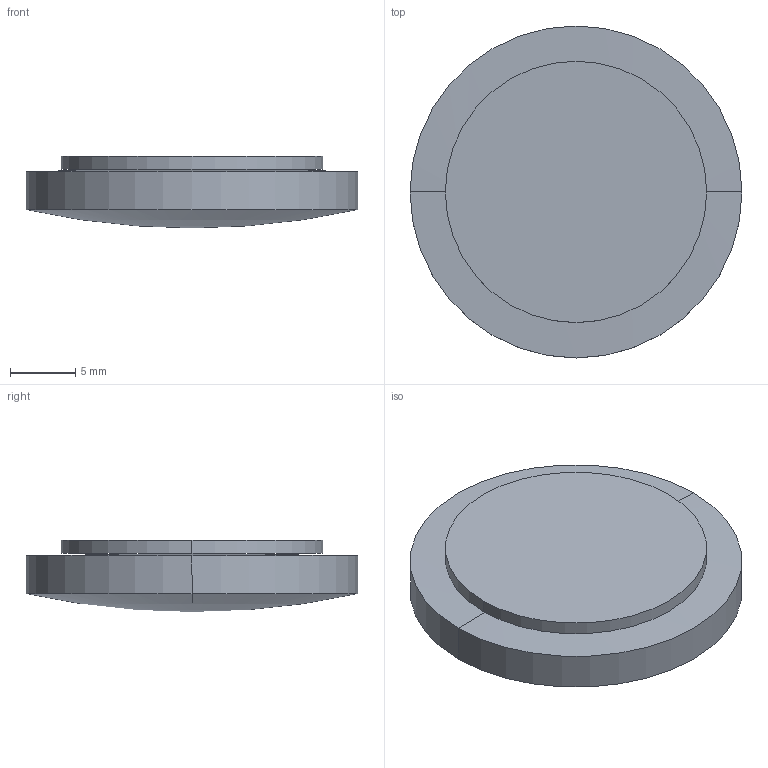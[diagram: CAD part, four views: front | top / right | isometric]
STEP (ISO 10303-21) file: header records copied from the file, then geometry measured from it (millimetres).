
FILE_DESCRIPTION(('STEP AP214'),'1');
FILE_NAME('LLV-25100.STEP','2020-03-09T17:42:20',(' '),(' '),'Spatial InterOp 3D',' ',' ');
FILE_SCHEMA(('AUTOMOTIVE_DESIGN { 1 0 10303 214 1 1 1 1 }'));
Length unit declared in the file: millimetre
Products named in the file (1): 1
Bounding box: 25.4 x 25.4 x 5.5 mm (x, y, z)
Volume: 2186.6 mm3; surface area: 1941.1 mm2
Topology: 2 solids, 2 shells, 10 faces, 20 edges, 10 vertices
Faces by surface type: sphere 4, cylinder 4, plane 2
Entity records: 255 total; most frequent: DIRECTION 52, CARTESIAN_POINT 38, ORIENTED_EDGE 32, AXIS2_PLACEMENT_3D 24, EDGE_CURVE 16, CIRCLE 12, ADVANCED_FACE 10, FACE_OUTER_BOUND 10
